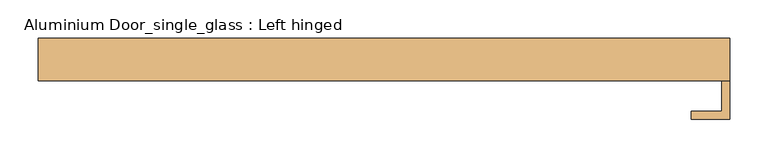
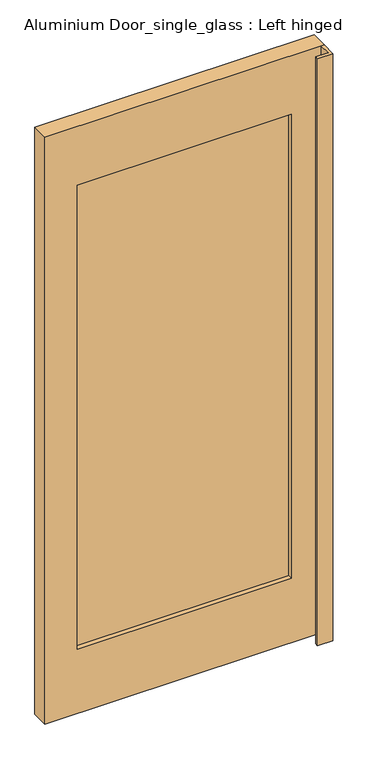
"""IFC4 building model written with IfcOpenShell, lengths in millimetres: door geometry, Aluminium Door_single_glass : Left hinged."""

from ifc_helpers import new_model, si_unit, frame, origin, place, context, project, spatial, polyline, outline, extrude, source, transform, mapped, element, save


def aluminium_door_single_glass_left_hinged_bedaa4f7(model_context):
    return source(origin(), model_context, "Body", "SweptSolid", [
        extrude(outline(polyline([(2050.0, 1013.0), (2050.0, 113.0), (50.0, 113.0), (50.0, 1013.0), (2050.0, 1013.0)]), holes=[polyline([(1850.0, 908.0), (269.0, 908.0), (269.0, 218.0), (1850.0, 218.0), (1850.0, 908.0)])]), frame((0.0, -55.0, 0.0), z_axis=(0.0, 1.0, 0.0), x_axis=(0.0, 0.0, 1.0)), (0.0, 0.0, 1.0), 55.0),
        extrude(outline(polyline([(1013.0, -105.0), (963.0, -105.0), (963.0, -95.0), (1003.0, -95.0), (1003.0, -55.0), (1013.0, -55.0), (1013.0, -105.0)])), frame((0.0, 0.0, 50.0), z_axis=(0.0, 0.0, 1.0), x_axis=(1.0, 0.0, 0.0)), (0.0, 0.0, 1.0), 2000.0),
        extrude(outline(polyline([(218.0, -15.0), (908.0, -15.0), (908.0, -40.0), (218.0, -40.0), (218.0, -15.0)])), frame((0.0, 0.0, 269.0), z_axis=(0.0, 0.0, 1.0), x_axis=(1.0, 0.0, 0.0)), (0.0, 0.0, 1.0), 1581.0),
    ])


if __name__ == "__main__":
    model = new_model("IFC4")
    model_context = context("Model", 3, world=origin())
    ifc_project = project(units=[si_unit("LENGTHUNIT", "METRE", prefix="MILLI")], contexts=[model_context])
    site = spatial("IfcSite", under=ifc_project)
    building = spatial("IfcBuilding", under=site)
    placement = place(None, origin())
    aluminium_door_single_glass_left_hinged_shape = aluminium_door_single_glass_left_hinged_bedaa4f7(model_context)
    element("IfcDoor", 1, ObjectType="Aluminium Door_single_glass : Left hinged", at=placement, inside=building, context=model_context, shape_type="MappedRepresentation", body=[
        mapped(aluminium_door_single_glass_left_hinged_shape, transform((0.0, 0.0, 0.0), x_axis=(1.0, 0.0, 0.0), y_axis=(0.0, 1.0, 0.0), z_axis=(0.0, 0.0, 1.0))),
    ])
    save(model, "model.ifc")
